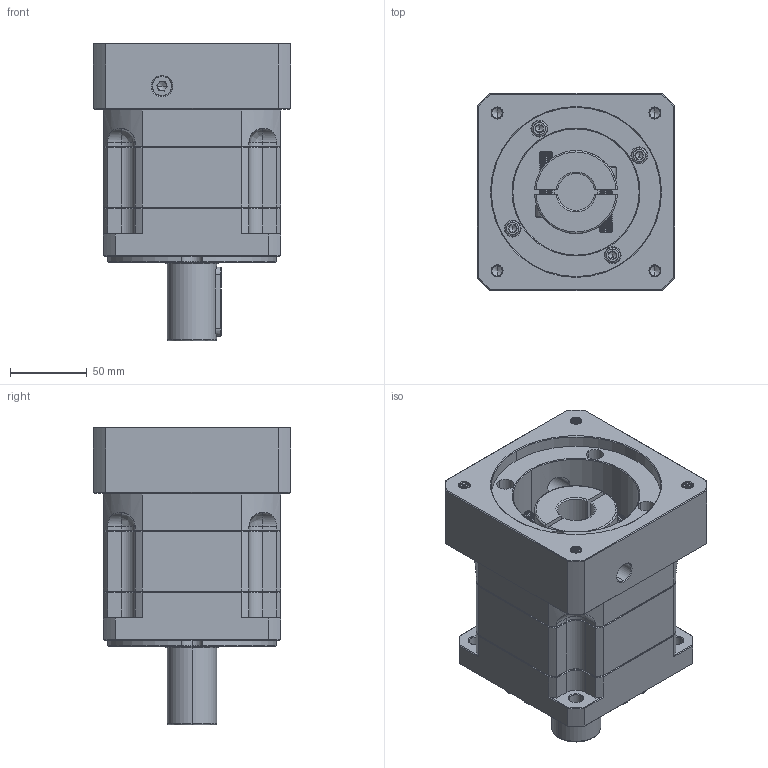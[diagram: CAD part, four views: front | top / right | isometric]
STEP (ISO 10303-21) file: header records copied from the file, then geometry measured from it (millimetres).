
FILE_DESCRIPTION (( 'STEP AP214' ), '1' );
FILE_NAME ('ZB115A-D32-L1-P2-24-110-145-M8.step', '2023-08-26T06:29:11', ( '' ), ( '' ), 'SwSTEP 2.0', 'SolidWorks 2016', '' );
FILE_SCHEMA (( 'AUTOMOTIVE_DESIGN' ));
Length unit declared in the file: millimetre
Products named in the file (1): ZB115A-D32-L1-P2-24-110-145-M8
Bounding box: 128 x 128 x 193.5 mm (x, y, z)
Volume: 1627429.8 mm3; surface area: 178993.8 mm2
Topology: 6 solids, 6 shells, 2391 faces, 6269 edges, 3977 vertices
Faces by surface type: plane 1143, cylinder 439, bspline 423, cone 366, torus 20
Entity records: 129010 total; most frequent: CARTESIAN_POINT 47432, ORIENTED_EDGE 12470, DIRECTION 9868, EDGE_CURVE 6235, VECTOR 3994, LINE 3994, VERTEX_POINT 3977, AXIS2_PLACEMENT_3D 2937
